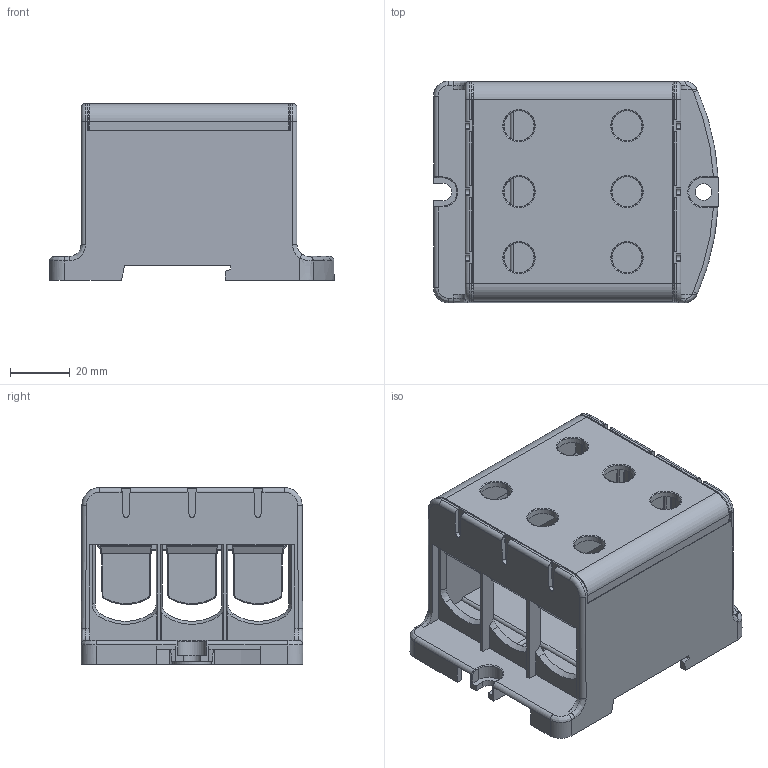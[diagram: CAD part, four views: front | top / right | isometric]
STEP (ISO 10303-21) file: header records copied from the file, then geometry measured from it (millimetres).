
FILE_DESCRIPTION((''),'2;1');
FILE_NAME('KE73_ASM','2016-05-30T',('Administrator'),(''),'PRO/ENGINEER BY PARAMETRIC TECHNOLOGY CORPORATION, 2009360','PRO/ENGINEER BY PARAMETRIC TECHNOLOGY CORPORATION, 2009360','');
FILE_SCHEMA(('CONFIG_CONTROL_DESIGN'));
Length unit declared in the file: millimetre
Products named in the file (3): KE68-3-GAI; KE68-3-ZUO; KE73_ASM
Assembly tree (2 placements, depth 2):
  KE73_ASM
    KE68-3-GAI
    KE68-3-ZUO
Bounding box: 95 x 74.02 x 59 mm (x, y, z)
Volume: 61245.8 mm3; surface area: 64386.8 mm2
Topology: 2 solids, 2 shells, 627 faces, 1675 edges, 1040 vertices
Faces by surface type: plane 304, cylinder 199, bspline 64, cone 30, torus 30
Entity records: 22668 total; most frequent: CARTESIAN_POINT 7476, ORIENTED_EDGE 3350, DIRECTION 2905, EDGE_CURVE 1675, VECTOR 1085, LINE 1085, VERTEX_POINT 1040, AXIS2_PLACEMENT_3D 910
